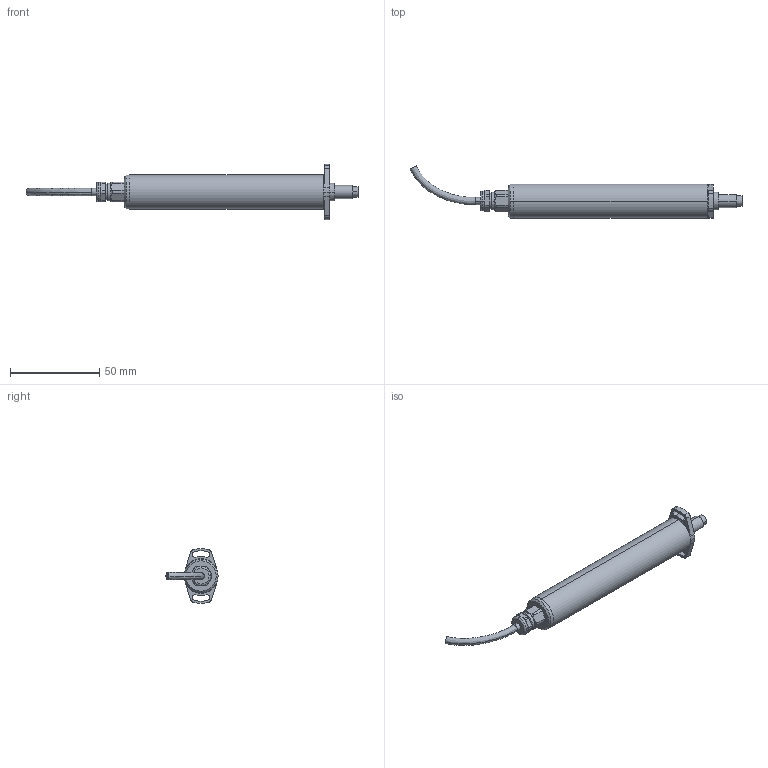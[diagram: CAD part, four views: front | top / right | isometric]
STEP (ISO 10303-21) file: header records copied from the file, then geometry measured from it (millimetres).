
FILE_DESCRIPTION (( 'STEP AP214' ), '1' );
FILE_NAME ('P118-50AL50N.STEP', '2025-04-10T10:33:14', ( '' ), ( '' ), 'SwSTEP 2.0', 'SolidWorks 2023', '' );
FILE_SCHEMA (( 'AUTOMOTIVE_DESIGN' ));
Length unit declared in the file: millimetre
Products named in the file (1): P118-50AL50N
Bounding box: 185.82 x 29.17 x 30.8 mm (x, y, z)
Surface area: 11656.4 mm2 (no closed solid volume)
Topology: 0 solids, 8 shells, 121 faces, 344 edges, 236 vertices
Faces by surface type: cylinder 57, plane 32, cone 22, torus 8, bspline 2
Entity records: 4379 total; most frequent: CARTESIAN_POINT 1162, DIRECTION 722, ORIENTED_EDGE 604, EDGE_CURVE 344, AXIS2_PLACEMENT_3D 294, VERTEX_POINT 236, CIRCLE 174, EDGE_LOOP 138
